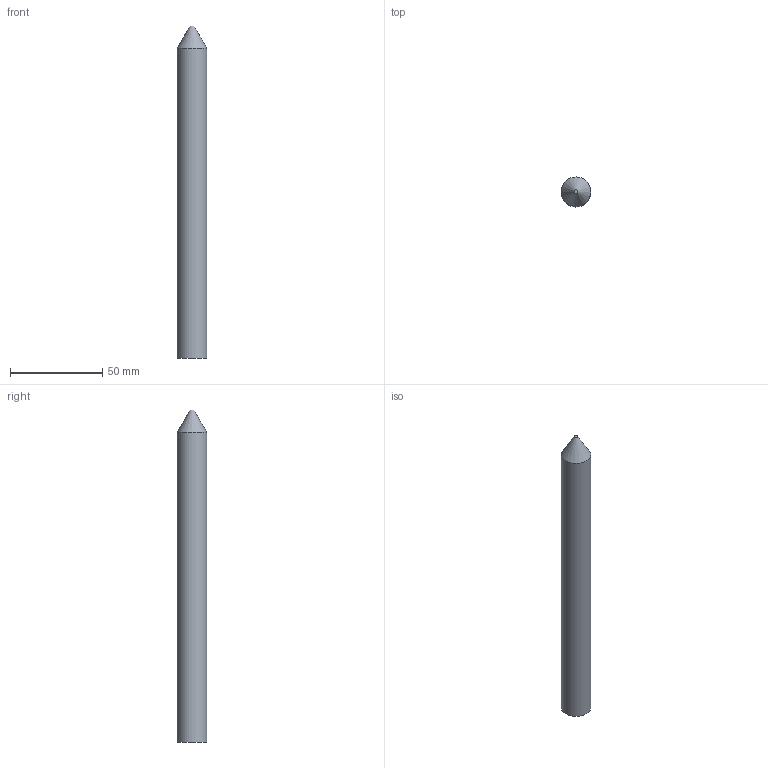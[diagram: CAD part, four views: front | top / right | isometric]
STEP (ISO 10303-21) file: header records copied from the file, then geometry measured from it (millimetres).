
FILE_DESCRIPTION(('Open CASCADE Model'),'2;1');
FILE_NAME('Open CASCADE Shape Model','2026-09-07T11:14:07',('Author'),( 'Open CASCADE'),'Open CASCADE STEP processor 7.9','Open CASCADE 7.9' ,'Unknown');
FILE_SCHEMA(('AUTOMOTIVE_DESIGN { 1 0 10303 214 1 1 1 1 }'));
Length unit declared in the file: millimetre
Products named in the file (1): Open CASCADE STEP translator 7.9 9
Bounding box: 16 x 16 x 180 mm (x, y, z)
Volume: 34704.8 mm3; surface area: 9044.2 mm2
Topology: 1 solids, 1 shells, 4 faces, 5 edges, 3 vertices
Faces by surface type: plane 2, cylinder 1, cone 1
Full cylindrical faces by diameter (mm): 16 x1
Entity records: 159 total; most frequent: DIRECTION 28, CARTESIAN_POINT 23, ORIENTED_EDGE 10, PCURVE 10, DEFINITIONAL_REPRESENTATION 10, LINE 10, VECTOR 10, AXIS2_PLACEMENT_3D 8
